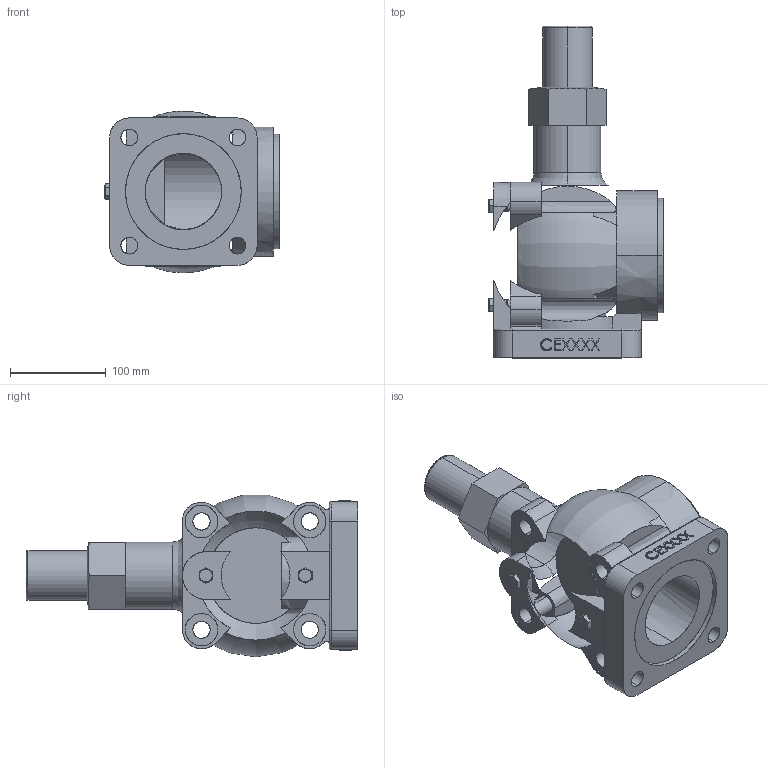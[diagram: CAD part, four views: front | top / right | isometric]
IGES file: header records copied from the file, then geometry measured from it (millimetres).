
Start section: SolidWorks IGES file using analytic representation for surfaces
Bounding box: 182 x 347 x 169.08 mm (x, y, z)
Surface area: 261541.8 mm2 (no closed solid volume)
Topology: 0 solids, 0 shells, 364 faces, 5830 edges, 5825 vertices
Faces by surface type: bspline 271, revolution 93
